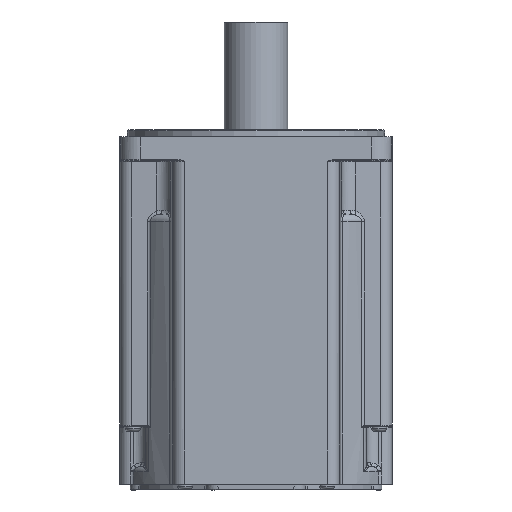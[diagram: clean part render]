
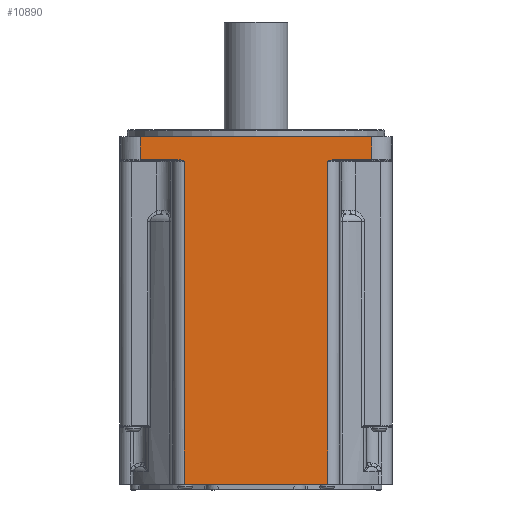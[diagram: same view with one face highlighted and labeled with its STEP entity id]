
A CAD part, front view. The second image highlights one B-rep face of the part: STEP entity #10890.
In plain terms, the highlighted planar face has unit normal (0, -1, 0).
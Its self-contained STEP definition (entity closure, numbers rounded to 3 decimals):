
#235 = CARTESIAN_POINT ( 'NONE',  ( -69., -69., -13.05 ) ) ;
#236 = AXIS2_PLACEMENT_3D ( 'NONE', #235, #287, #286 ) ;
#237 = PLANE ( 'NONE',  #236 ) ;
#254 = FACE_OUTER_BOUND ( 'NONE', #10891, .T. ) ;
#285 = CARTESIAN_POINT ( 'NONE',  ( 58.485, -69., -12.554 ) ) ;
#286 = DIRECTION ( 'NONE',  ( 0., 0., -1. ) ) ;
#287 = DIRECTION ( 'NONE',  ( 0., -1., 0. ) ) ;
#643 = CARTESIAN_POINT ( 'NONE',  ( -58.485, -69., -1.04 ) ) ;
#644 = DIRECTION ( 'NONE',  ( -1., 0., 0. ) ) ;
#645 = VECTOR ( 'NONE', #644, 1000. ) ;
#646 = CARTESIAN_POINT ( 'NONE',  ( -69., -69., -1.04 ) ) ;
#647 = LINE ( 'NONE', #646, #645 ) ;
#648 = CARTESIAN_POINT ( 'NONE',  ( 58.485, -69., -1.04 ) ) ;
#649 = DIRECTION ( 'NONE',  ( 0., 0., 1. ) ) ;
#650 = VECTOR ( 'NONE', #649, 1000. ) ;
#651 = CARTESIAN_POINT ( 'NONE',  ( 58.485, -69., -13.05 ) ) ;
#652 = LINE ( 'NONE', #651, #650 ) ;
#788 = CARTESIAN_POINT ( 'NONE',  ( -58.485, -69., -12.554 ) ) ;
#10604 = VERTEX_POINT ( 'NONE', #31768 ) ;
#10606 = EDGE_CURVE ( 'NONE', #10607, #10604, #31767, .T. ) ;
#10607 = VERTEX_POINT ( 'NONE', #31763 ) ;
#10890 = ADVANCED_FACE ( 'NONE', ( #254 ), #237, .T. ) ;
#10891 = EDGE_LOOP ( 'NONE', ( #10919, #10930, #10933, #11001, #11046, #11047, #11055, #11056, #11074, #11072 ) ) ;
#10892 = VERTEX_POINT ( 'NONE', #285 ) ;
#10919 = ORIENTED_EDGE ( 'NONE', *, *, #10928, .T. ) ;
#10928 = EDGE_CURVE ( 'NONE', #10892, #10929, #652, .T. ) ;
#10929 = VERTEX_POINT ( 'NONE', #648 ) ;
#10930 = ORIENTED_EDGE ( 'NONE', *, *, #10931, .T. ) ;
#10931 = EDGE_CURVE ( 'NONE', #10929, #10932, #647, .T. ) ;
#10932 = VERTEX_POINT ( 'NONE', #643 ) ;
#10933 = ORIENTED_EDGE ( 'NONE', *, *, #11024, .T. ) ;
#10965 = VERTEX_POINT ( 'NONE', #788 ) ;
#11001 = ORIENTED_EDGE ( 'NONE', *, *, #11045, .T. ) ;
#11002 = VERTEX_POINT ( 'NONE', #29152 ) ;
#11024 = EDGE_CURVE ( 'NONE', #10932, #10965, #29442, .T. ) ;
#11035 = EDGE_CURVE ( 'NONE', #11002, #11036, #29444, .T. ) ;
#11036 = VERTEX_POINT ( 'NONE', #29455 ) ;
#11045 = EDGE_CURVE ( 'NONE', #10965, #11002, #29486, .T. ) ;
#11046 = ORIENTED_EDGE ( 'NONE', *, *, #11035, .T. ) ;
#11047 = ORIENTED_EDGE ( 'NONE', *, *, #11054, .T. ) ;
#11048 = VERTEX_POINT ( 'NONE', #29489 ) ;
#11053 = EDGE_CURVE ( 'NONE', #11048, #10892, #29719, .T. ) ;
#11054 = EDGE_CURVE ( 'NONE', #11036, #10607, #29711, .T. ) ;
#11055 = ORIENTED_EDGE ( 'NONE', *, *, #10606, .T. ) ;
#11056 = ORIENTED_EDGE ( 'NONE', *, *, #11059, .T. ) ;
#11059 = EDGE_CURVE ( 'NONE', #10604, #11073, #29723, .T. ) ;
#11072 = ORIENTED_EDGE ( 'NONE', *, *, #11053, .T. ) ;
#11073 = VERTEX_POINT ( 'NONE', #29738 ) ;
#11074 = ORIENTED_EDGE ( 'NONE', *, *, #11075, .T. ) ;
#11075 = EDGE_CURVE ( 'NONE', #11073, #11048, #29826, .T. ) ;
#29152 = CARTESIAN_POINT ( 'NONE',  ( -39.635, -69., -12.554 ) ) ;
#29439 = DIRECTION ( 'NONE',  ( 0., 0., -1. ) ) ;
#29440 = VECTOR ( 'NONE', #29439, 1000. ) ;
#29441 = CARTESIAN_POINT ( 'NONE',  ( -58.485, -69., -13.05 ) ) ;
#29442 = LINE ( 'NONE', #29441, #29440 ) ;
#29443 = CARTESIAN_POINT ( 'NONE',  ( -39.635, -69., -12.554 ) ) ;
#29444 = B_SPLINE_CURVE_WITH_KNOTS ( 'NONE', 3,
 ( #29443, #29467, #29466, #29465, #29464, #29448, #29447, #29446, #29451, #29450 ),
 .UNSPECIFIED., .F., .F.,
 ( 4, 2, 2, 2, 4 ),
 ( 0., 0.001, 0.002, 0.003, 0.004 ),
 .UNSPECIFIED. ) ;
#29446 = CARTESIAN_POINT ( 'NONE',  ( -36.74, -69., -13.309 ) ) ;
#29447 = CARTESIAN_POINT ( 'NONE',  ( -37.3, -69., -13.085 ) ) ;
#29448 = CARTESIAN_POINT ( 'NONE',  ( -37.582, -69., -12.978 ) ) ;
#29450 = CARTESIAN_POINT ( 'NONE',  ( -36.185, -69., -13.546 ) ) ;
#29451 = CARTESIAN_POINT ( 'NONE',  ( -36.461, -69., -13.428 ) ) ;
#29455 = CARTESIAN_POINT ( 'NONE',  ( -36.185, -69., -13.546 ) ) ;
#29464 = CARTESIAN_POINT ( 'NONE',  ( -38.155, -69., -12.791 ) ) ;
#29465 = CARTESIAN_POINT ( 'NONE',  ( -38.446, -69., -12.71 ) ) ;
#29466 = CARTESIAN_POINT ( 'NONE',  ( -39.034, -69., -12.592 ) ) ;
#29467 = CARTESIAN_POINT ( 'NONE',  ( -39.331, -69., -12.554 ) ) ;
#29484 = DIRECTION ( 'NONE',  ( 1., 0., 0. ) ) ;
#29485 = VECTOR ( 'NONE', #29484, 1000. ) ;
#29486 = LINE ( 'NONE', #29488, #29485 ) ;
#29488 = CARTESIAN_POINT ( 'NONE',  ( -36.185, -69., -12.554 ) ) ;
#29489 = CARTESIAN_POINT ( 'NONE',  ( 39.635, -69., -12.554 ) ) ;
#29693 = DIRECTION ( 'NONE',  ( 1., 0., 0. ) ) ;
#29709 = DIRECTION ( 'NONE',  ( 0., 0., -1. ) ) ;
#29710 = CARTESIAN_POINT ( 'NONE',  ( -36.185, -69., -176.74 ) ) ;
#29711 = LINE ( 'NONE', #29710, #29716 ) ;
#29716 = VECTOR ( 'NONE', #29709, 1000. ) ;
#29717 = VECTOR ( 'NONE', #29693, 1000. ) ;
#29718 = CARTESIAN_POINT ( 'NONE',  ( 58.485, -69., -12.554 ) ) ;
#29719 = LINE ( 'NONE', #29718, #29717 ) ;
#29720 = CARTESIAN_POINT ( 'NONE',  ( 36.185, -69., -13.05 ) ) ;
#29722 = DIRECTION ( 'NONE',  ( 0., 0., 1. ) ) ;
#29723 = LINE ( 'NONE', #29720, #29730 ) ;
#29730 = VECTOR ( 'NONE', #29722, 1000. ) ;
#29738 = CARTESIAN_POINT ( 'NONE',  ( 36.185, -69., -13.546 ) ) ;
#29741 = CARTESIAN_POINT ( 'NONE',  ( 39.034, -69., -12.592 ) ) ;
#29742 = CARTESIAN_POINT ( 'NONE',  ( 38.446, -69., -12.71 ) ) ;
#29743 = CARTESIAN_POINT ( 'NONE',  ( 38.155, -69., -12.791 ) ) ;
#29744 = CARTESIAN_POINT ( 'NONE',  ( 39.635, -69., -12.554 ) ) ;
#29745 = CARTESIAN_POINT ( 'NONE',  ( 39.331, -69., -12.554 ) ) ;
#29746 = CARTESIAN_POINT ( 'NONE',  ( 37.295, -69., -13.072 ) ) ;
#29747 = CARTESIAN_POINT ( 'NONE',  ( 36.74, -69., -13.309 ) ) ;
#29748 = CARTESIAN_POINT ( 'NONE',  ( 36.185, -69., -13.546 ) ) ;
#29826 = B_SPLINE_CURVE_WITH_KNOTS ( 'NONE', 3,
 ( #29748, #29747, #29746, #29743, #29742, #29741, #29745, #29744 ),
 .UNSPECIFIED., .F., .F.,
 ( 4, 2, 2, 4 ),
 ( 0., 0.002, 0.003, 0.004 ),
 .UNSPECIFIED. ) ;
#31763 = CARTESIAN_POINT ( 'NONE',  ( -36.185, -69., -176.74 ) ) ;
#31764 = DIRECTION ( 'NONE',  ( 1., 0., 0. ) ) ;
#31765 = VECTOR ( 'NONE', #31764, 1000. ) ;
#31766 = CARTESIAN_POINT ( 'NONE',  ( -41.683, -69., -176.74 ) ) ;
#31767 = LINE ( 'NONE', #31766, #31765 ) ;
#31768 = CARTESIAN_POINT ( 'NONE',  ( 36.185, -69., -176.74 ) ) ;
